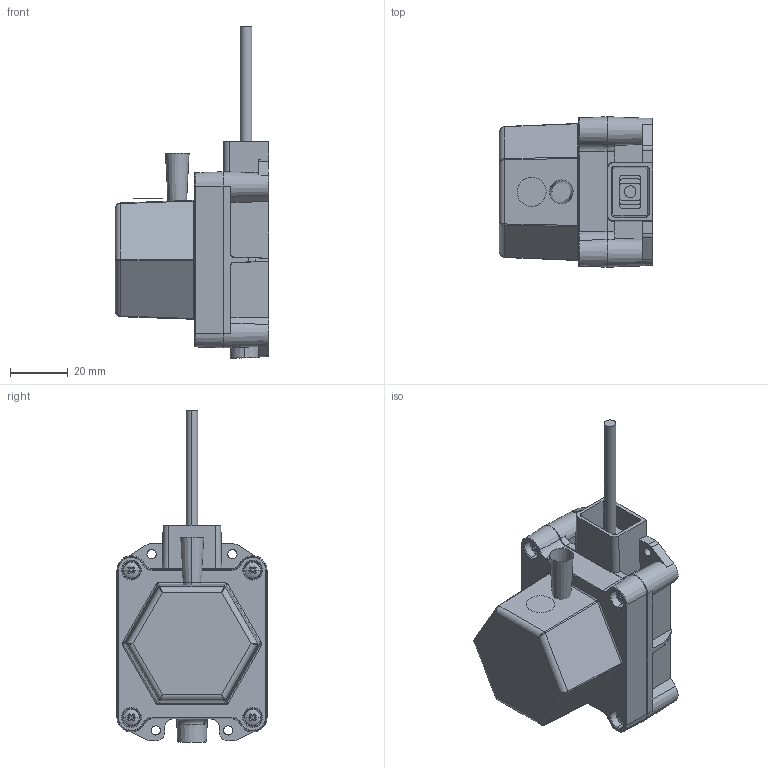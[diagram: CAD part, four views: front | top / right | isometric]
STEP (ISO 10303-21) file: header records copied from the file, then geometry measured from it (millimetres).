
FILE_DESCRIPTION (( 'STEP AP203' ), '1' );
FILE_NAME ('TF-LDS-500 F 0928.STEP', '2025-09-28T03:30:22', ( '' ), ( '' ), 'SwSTEP 2.0', 'SolidWorks 2025', '' );
FILE_SCHEMA (( 'CONFIG_CONTROL_DESIGN' ));
Length unit declared in the file: millimetre
Products named in the file (19): RAYS_1; O型圈; OBJECT_4; SR; tfs500-uw-all-001_asm(2); 10.03.03.013-TFLDS-01-外罩-X00; 000-0; TF-LDS-500 F 0928; 干燥剂 2.5g; 9-1008底座; _X2_63A56536955C7247_X0__ZOS_ASM; 线; tfs500-uw-all-001_asm; GB╱T 70.1-2008[十字盘头螺钉M3×8].step_ST2.9×6.5; _X2_53D15C04_X0_-_X2_975E5E8F52_ASM; GB╱T 818-2016[十字槽盘头螺钉M3×20]_M3×20; O型圈 3 1; _072400_ASM; 0001_ASM
Assembly tree (22 placements, depth 6):
  TF-LDS-500 F 0928
    10.03.03.013-TFLDS-01-外罩-X00
    线
    O型圈  x2
    GB╱T 818-2016[十字槽盘头螺钉M3×20]_M3×20  x4
    O型圈 3 1
    GB╱T 70.1-2008[十字盘头螺钉M3×8].step_ST2.9×6.5
    tfs500-uw-all-001_asm
      tfs500-uw-all-001_asm(2)
        _072400_ASM
          _X2_53D15C04_X0_-_X2_975E5E8F52_ASM
            OBJECT_4
        0001_ASM
          _X2_63A56536955C7247_X0__ZOS_ASM
            RAYS_1
        000-0
    SR
    干燥剂 2.5g
    9-1008底座
Bounding box: 53.1 x 52 x 114.94 mm (x, y, z)
Volume: 47436.6 mm3; surface area: 44163.5 mm2
Topology: 28 solids, 30 shells, 1945 faces, 5056 edges, 3196 vertices
Faces by surface type: plane 1142, cylinder 484, cone 168, torus 68, bspline 66, sphere 17
Entity records: 60848 total; most frequent: CARTESIAN_POINT 14237, ORIENTED_EDGE 9482, DIRECTION 9042, EDGE_CURVE 4744, VECTOR 3238, LINE 3238, VERTEX_POINT 3022, AXIS2_PLACEMENT_3D 2902
